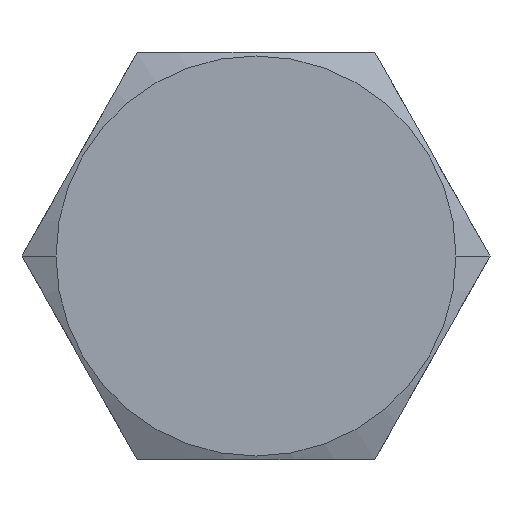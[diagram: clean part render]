
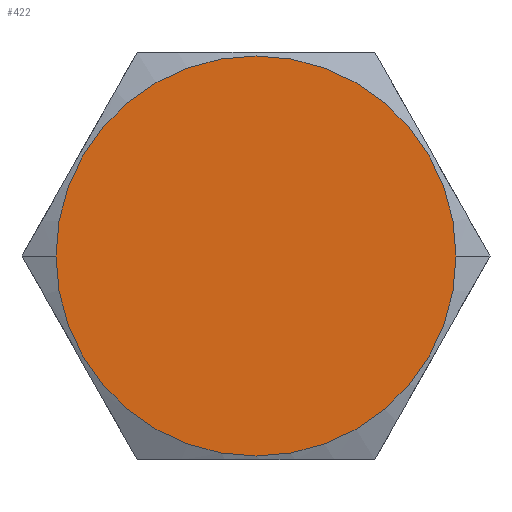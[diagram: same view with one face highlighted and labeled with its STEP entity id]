
A CAD part, front view. The second image highlights one B-rep face of the part: STEP entity #422.
In plain terms, the highlighted planar face has unit normal (0, -1, 0).
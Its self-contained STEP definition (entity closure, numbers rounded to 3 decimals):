
#1=CARTESIAN_POINT('',(0.,0.,0.));
#2=DIRECTION('',(0.,1.,0.));
#3=DIRECTION('',(1.,0.,0.));
#4=AXIS2_PLACEMENT_3D('',#1,#2,#3);
#6=CARTESIAN_POINT('',(0.,0.,0.));
#7=DIRECTION('',(0.,1.,0.));
#8=DIRECTION('',(-1.,0.,0.));
#9=AXIS2_PLACEMENT_3D('',#6,#7,#8);
#393=CARTESIAN_POINT('',(17.679,0.,0.));
#394=CARTESIAN_POINT('',(-17.679,0.,0.));
#395=VERTEX_POINT('',#393);
#396=VERTEX_POINT('',#394);
#411=CARTESIAN_POINT('',(0.,0.,0.));
#412=DIRECTION('',(0.,1.,0.));
#413=DIRECTION('',(1.,0.,0.));
#414=AXIS2_PLACEMENT_3D('',#411,#412,#413);
#415=PLANE('',#414);
#417=ORIENTED_EDGE('',*,*,#416,.T.);
#419=ORIENTED_EDGE('',*,*,#418,.T.);
#420=EDGE_LOOP('',(#417,#419));
#421=FACE_OUTER_BOUND('',#420,.F.);
#422=ADVANCED_FACE('',(#421),#415,.F.);
#5=CIRCLE('',#4,17.679);
#10=CIRCLE('',#9,17.679);
#416=EDGE_CURVE('',#395,#396,#5,.T.);
#418=EDGE_CURVE('',#396,#395,#10,.T.);
